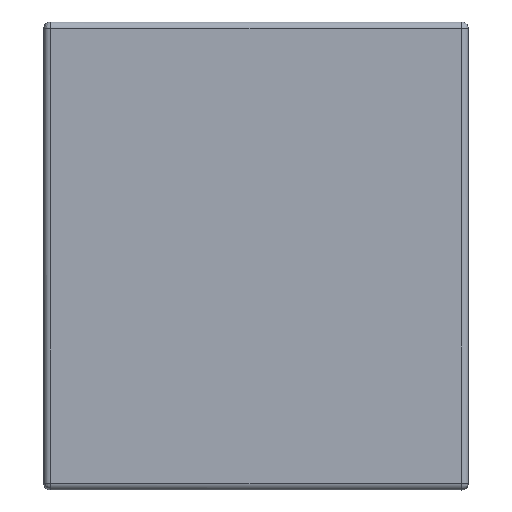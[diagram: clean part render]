
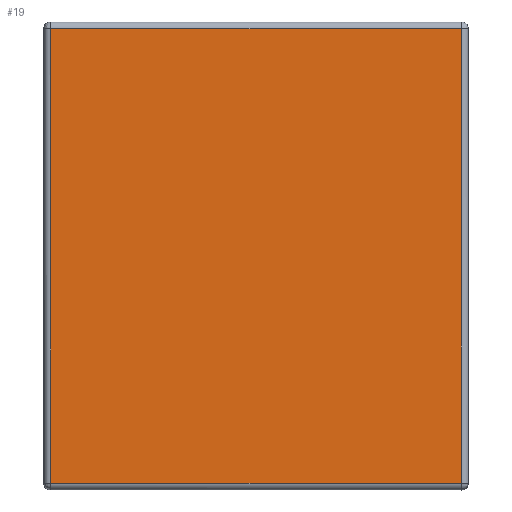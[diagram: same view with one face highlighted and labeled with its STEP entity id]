
A CAD part, top view. The second image highlights one B-rep face of the part: STEP entity #19.
In plain terms, the highlighted planar face has unit normal (0.001, 0, 1).
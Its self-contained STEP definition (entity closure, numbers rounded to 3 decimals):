
#19=ADVANCED_FACE('',(#45),#333,.T.);
#45=FACE_OUTER_BOUND('',#71,.T.);
#71=EDGE_LOOP('',(#112,#113,#114,#115));
#112=ORIENTED_EDGE('',*,*,#208,.T.);
#113=ORIENTED_EDGE('',*,*,#211,.T.);
#114=ORIENTED_EDGE('',*,*,#209,.T.);
#115=ORIENTED_EDGE('',*,*,#210,.T.);
#208=EDGE_CURVE('',#304,#305,#280,.T.);
#209=EDGE_CURVE('',#306,#307,#281,.T.);
#210=EDGE_CURVE('',#307,#304,#282,.T.);
#211=EDGE_CURVE('',#305,#306,#283,.T.);
#280=B_SPLINE_CURVE_WITH_KNOTS('',1,(#686,#687),.UNSPECIFIED.,.F.,.F.,(2,
2),(8.,532.),.UNSPECIFIED.);
#281=B_SPLINE_CURVE_WITH_KNOTS('',1,(#688,#689),.UNSPECIFIED.,.F.,.F.,(2,
2),(8.,532.),.UNSPECIFIED.);
#282=B_SPLINE_CURVE_WITH_KNOTS('',1,(#690,#691),.UNSPECIFIED.,.F.,.F.,(2,
2),(8.,482.),.UNSPECIFIED.);
#283=B_SPLINE_CURVE_WITH_KNOTS('',1,(#692,#693),.UNSPECIFIED.,.F.,.F.,(2,
2),(8.,482.),.UNSPECIFIED.);
#304=VERTEX_POINT('',#642);
#305=VERTEX_POINT('',#643);
#306=VERTEX_POINT('',#644);
#307=VERTEX_POINT('',#645);
#333=PLANE('',#427);
#427=AXIS2_PLACEMENT_3D('',#469,#448,$);
#448=DIRECTION('',(0.001,0.,1.));
#469=CARTESIAN_POINT('',(245.015,270.001,29.509));
#642=CARTESIAN_POINT('',(-236.985,262.001,30.003));
#643=CARTESIAN_POINT('',(-236.985,-261.999,30.003));
#644=CARTESIAN_POINT('',(237.015,-261.999,29.517));
#645=CARTESIAN_POINT('',(237.015,262.001,29.517));
#686=CARTESIAN_POINT('',(-236.985,262.001,30.003));
#687=CARTESIAN_POINT('',(-236.985,-261.999,30.003));
#688=CARTESIAN_POINT('',(237.015,-261.999,29.517));
#689=CARTESIAN_POINT('',(237.015,262.001,29.517));
#690=CARTESIAN_POINT('',(237.015,262.001,29.517));
#691=CARTESIAN_POINT('',(-236.985,262.001,30.003));
#692=CARTESIAN_POINT('',(-236.985,-261.999,30.003));
#693=CARTESIAN_POINT('',(237.015,-261.999,29.517));
